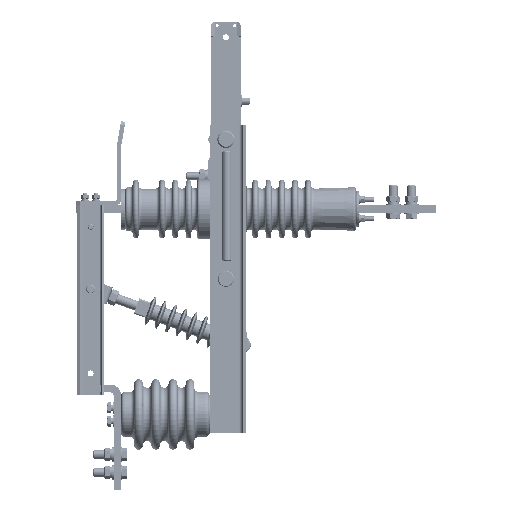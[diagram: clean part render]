
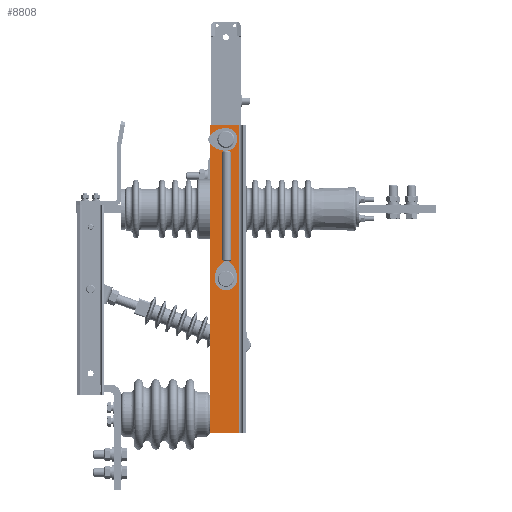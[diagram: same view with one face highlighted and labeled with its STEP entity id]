
A CAD part, left-side view. The second image highlights one B-rep face of the part: STEP entity #8808.
In plain terms, the highlighted planar face has unit normal (-1, 0, 0).
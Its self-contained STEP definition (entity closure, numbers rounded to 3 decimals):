
#2071 = AXIS2_PLACEMENT_3D ( 'NONE', #52263, #59671, #60006 ) ;
#3750 = ORIENTED_EDGE ( 'NONE', *, *, #70712, .T. ) ;
#4845 = EDGE_CURVE ( 'NONE', #59824, #59824, #29637, .T. ) ;
#6607 = LINE ( 'NONE', #24888, #65997 ) ;
#8808 = ADVANCED_FACE ( 'NONE', ( #22690, #100154, #61428 ), #98564, .T. ) ;
#9209 = CARTESIAN_POINT ( 'NONE',  ( -268.75, 50., 255. ) ) ;
#10711 = DIRECTION ( 'NONE',  ( 1., 0., 0. ) ) ;
#17704 = DIRECTION ( 'NONE',  ( 0., -1., 0. ) ) ;
#19581 = EDGE_CURVE ( 'NONE', #96729, #85591, #51314, .T. ) ;
#19911 = EDGE_LOOP ( 'NONE', ( #3750 ) ) ;
#22690 = FACE_BOUND ( 'NONE', #36171, .T. ) ;
#24888 = CARTESIAN_POINT ( 'NONE',  ( -268.75, 50., -165. ) ) ;
#27897 = EDGE_CURVE ( 'NONE', #58401, #85591, #97441, .T. ) ;
#28182 = EDGE_LOOP ( 'NONE', ( #69860, #37705, #35451, #97173 ) ) ;
#28346 = CIRCLE ( 'NONE', #89052, 11.19 ) ;
#28707 = CARTESIAN_POINT ( 'NONE',  ( -268.75, 39.71, 235. ) ) ;
#29637 = CIRCLE ( 'NONE', #79109, 11.71 ) ;
#34390 = CARTESIAN_POINT ( 'NONE',  ( -268.75, 28., 45. ) ) ;
#35437 = LINE ( 'NONE', #66806, #74175 ) ;
#35451 = ORIENTED_EDGE ( 'NONE', *, *, #60383, .F. ) ;
#36171 = EDGE_LOOP ( 'NONE', ( #79325 ) ) ;
#37705 = ORIENTED_EDGE ( 'NONE', *, *, #19581, .F. ) ;
#38750 = CARTESIAN_POINT ( 'NONE',  ( -268.75, 50., -165. ) ) ;
#38880 = CARTESIAN_POINT ( 'NONE',  ( -268.75, 50., 255. ) ) ;
#42176 = DIRECTION ( 'NONE',  ( 0., 0., -1. ) ) ;
#42573 = EDGE_CURVE ( 'NONE', #85241, #58401, #6607, .T. ) ;
#51314 = LINE ( 'NONE', #9209, #94877 ) ;
#52263 = CARTESIAN_POINT ( 'NONE',  ( -268.75, 50., -165. ) ) ;
#52351 = CARTESIAN_POINT ( 'NONE',  ( -268.75, 28., 33.81 ) ) ;
#53880 = VECTOR ( 'NONE', #84438, 1000. ) ;
#57142 = CARTESIAN_POINT ( 'NONE',  ( -268.75, 28., 235. ) ) ;
#58401 = VERTEX_POINT ( 'NONE', #98471 ) ;
#59671 = DIRECTION ( 'NONE',  ( -1., 0., 0. ) ) ;
#59824 = VERTEX_POINT ( 'NONE', #28707 ) ;
#60006 = DIRECTION ( 'NONE',  ( 0., 0., -1. ) ) ;
#60383 = EDGE_CURVE ( 'NONE', #85241, #96729, #35437, .T. ) ;
#61428 = FACE_BOUND ( 'NONE', #19911, .T. ) ;
#64869 = DIRECTION ( 'NONE',  ( 0., 1., 0. ) ) ;
#65997 = VECTOR ( 'NONE', #94540, 1000. ) ;
#66806 = CARTESIAN_POINT ( 'NONE',  ( -268.75, 50., -165. ) ) ;
#68539 = CARTESIAN_POINT ( 'NONE',  ( -268.75, 10., -165. ) ) ;
#69087 = CARTESIAN_POINT ( 'NONE',  ( -268.75, 10., 255. ) ) ;
#69860 = ORIENTED_EDGE ( 'NONE', *, *, #27897, .T. ) ;
#70712 = EDGE_CURVE ( 'NONE', #81245, #81245, #28346, .T. ) ;
#74175 = VECTOR ( 'NONE', #97939, 1000. ) ;
#79109 = AXIS2_PLACEMENT_3D ( 'NONE', #57142, #10711, #64869 ) ;
#79325 = ORIENTED_EDGE ( 'NONE', *, *, #4845, .T. ) ;
#81245 = VERTEX_POINT ( 'NONE', #52351 ) ;
#84438 = DIRECTION ( 'NONE',  ( 0., 0., 1. ) ) ;
#85241 = VERTEX_POINT ( 'NONE', #38750 ) ;
#85591 = VERTEX_POINT ( 'NONE', #69087 ) ;
#88541 = DIRECTION ( 'NONE',  ( 1., 0., 0. ) ) ;
#89052 = AXIS2_PLACEMENT_3D ( 'NONE', #34390, #88541, #42176 ) ;
#94540 = DIRECTION ( 'NONE',  ( 0., -1., 0. ) ) ;
#94877 = VECTOR ( 'NONE', #17704, 1000. ) ;
#96729 = VERTEX_POINT ( 'NONE', #38880 ) ;
#97173 = ORIENTED_EDGE ( 'NONE', *, *, #42573, .T. ) ;
#97441 = LINE ( 'NONE', #68539, #53880 ) ;
#97939 = DIRECTION ( 'NONE',  ( 0., 0., 1. ) ) ;
#98471 = CARTESIAN_POINT ( 'NONE',  ( -268.75, 10., -165. ) ) ;
#98564 = PLANE ( 'NONE',  #2071 ) ;
#100154 = FACE_OUTER_BOUND ( 'NONE', #28182, .T. ) ;
